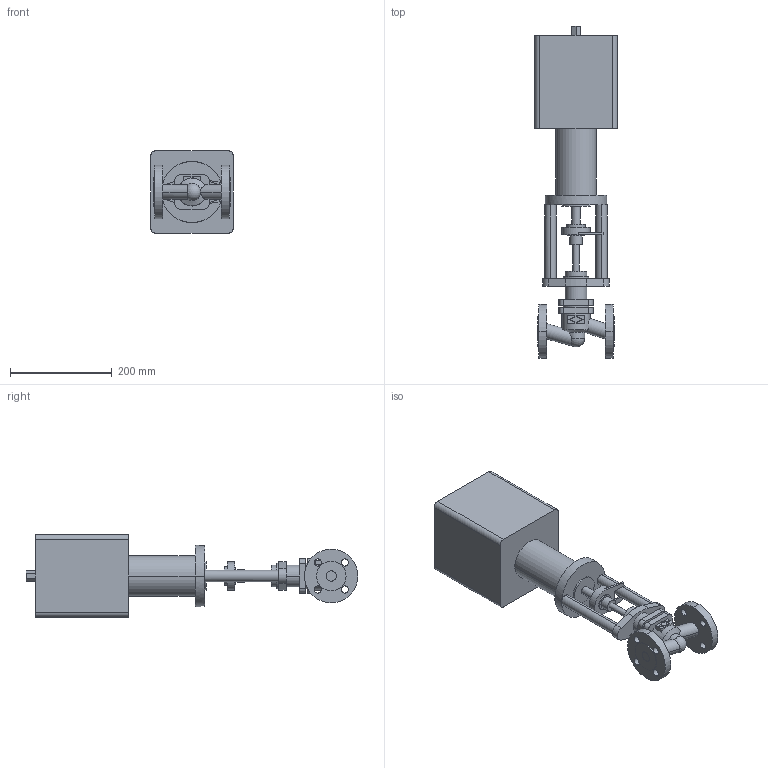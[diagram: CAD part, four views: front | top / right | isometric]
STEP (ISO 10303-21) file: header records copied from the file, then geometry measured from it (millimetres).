
FILE_DESCRIPTION( ( '' ), '1' );
FILE_NAME( 'F:/DE-SHS/TB/OR/04-Sonstiges/daten/files_3d/440-FR2.2/440-PN40-FR2_2/c000004537.stp', '2014-11-06T10:25:00', ( '' ), ( '' ), ' ', ' ', ' ' );
FILE_SCHEMA( ( 'CONFIG_CONTROL_DESIGN' ) );
Length unit declared in the file: millimetre
Products named in the file (2): 1; 2
Bounding box: 162 x 651.5 x 162 mm (x, y, z)
Volume: 6522322.8 mm3; surface area: 357147.5 mm2
Topology: 2 solids, 2 shells, 162 faces, 396 edges, 262 vertices
Faces by surface type: cylinder 82, plane 77, cone 2, sphere 1
Entity records: 5227 total; most frequent: CARTESIAN_POINT 1136, DIRECTION 885, ORIENTED_EDGE 788, EDGE_CURVE 394, AXIS2_PLACEMENT_3D 341, VERTEX_POINT 262, EDGE_LOOP 204, LINE 203
